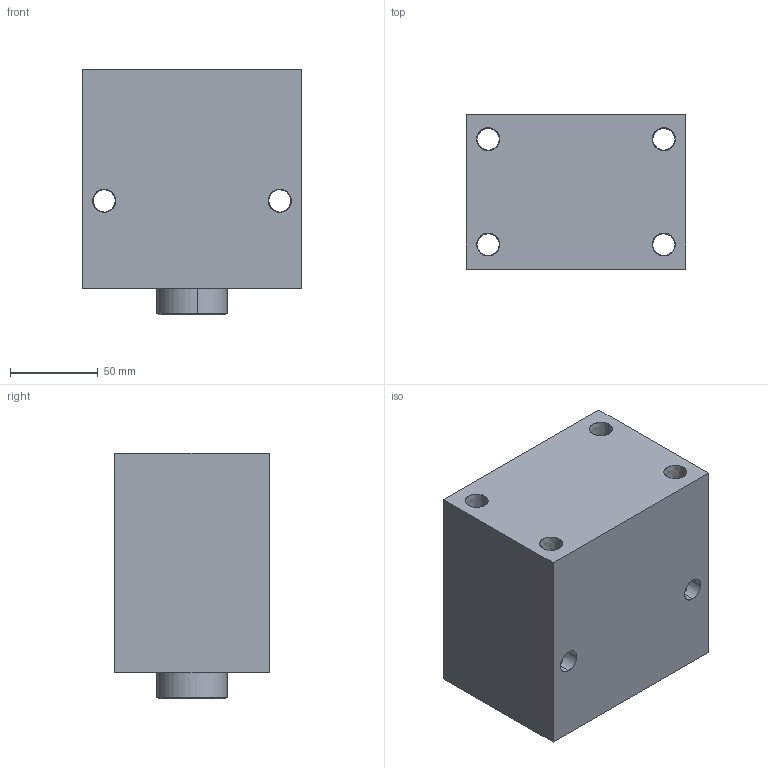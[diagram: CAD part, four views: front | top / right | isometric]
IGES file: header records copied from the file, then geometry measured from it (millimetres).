
Start section: SolidWorks IGES file using analytic representation for surfaces
Global section: file name: D:\karuppas\Clasp\3D model\Block cylinder B01C-Female thread\B01C-650F\Block cylinder B01C-650F.IGS; native system: SolidWorks 2017; preprocessor: SolidWorks 2017; author: pc; date: 220710.000422; units: millimetre
Bounding box: 125 x 88 x 140 mm (x, y, z)
Surface area: 126004.5 mm2 (no closed solid volume)
Topology: 0 solids, 0 shells, 344 faces, 5307 edges, 5301 vertices
Faces by surface type: bspline 292, revolution 52
